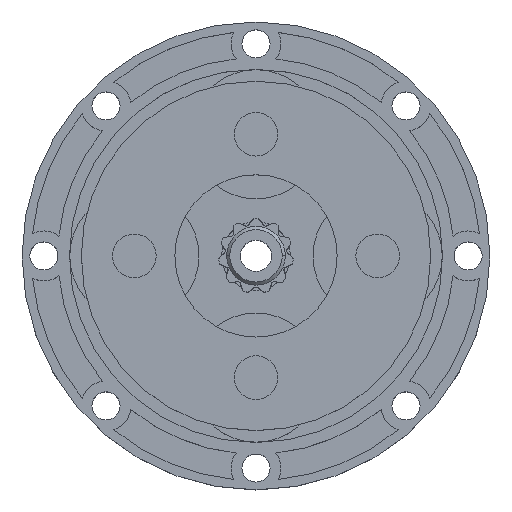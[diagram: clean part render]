
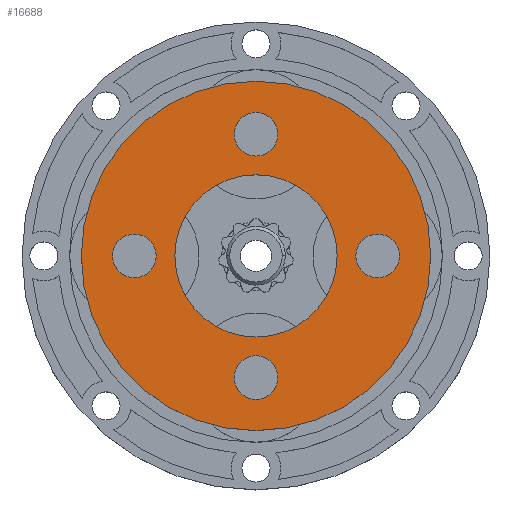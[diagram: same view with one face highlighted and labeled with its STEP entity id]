
A CAD part, top view. The second image highlights one B-rep face of the part: STEP entity #16688.
In plain terms, the highlighted planar face has unit normal (0, 0, 1).
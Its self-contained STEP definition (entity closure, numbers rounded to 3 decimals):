
#270 = AXIS2_PLACEMENT_3D ( 'NONE', #13470, #5233, #5578 ) ;
#287 = DIRECTION ( 'NONE',  ( 0., 0., 1. ) ) ;
#678 = CIRCLE ( 'NONE', #12444, 3.5 ) ;
#724 = CARTESIAN_POINT ( 'NONE',  ( -19.5, 0., 8.35 ) ) ;
#727 = ORIENTED_EDGE ( 'NONE', *, *, #7710, .F. ) ;
#902 = VERTEX_POINT ( 'NONE', #6991 ) ;
#1197 = CIRCLE ( 'NONE', #12405, 3.5 ) ;
#1331 = CARTESIAN_POINT ( 'NONE',  ( 0., -19.5, 8.35 ) ) ;
#1669 = CIRCLE ( 'NONE', #2508, 3.5 ) ;
#1938 = PLANE ( 'NONE',  #3360 ) ;
#2398 = VERTEX_POINT ( 'NONE', #17147 ) ;
#2508 = AXIS2_PLACEMENT_3D ( 'NONE', #16681, #3437, #4676 ) ;
#2682 = CARTESIAN_POINT ( 'NONE',  ( -19.5, 0., 8.35 ) ) ;
#2695 = DIRECTION ( 'NONE',  ( 0., 0., 1. ) ) ;
#2770 = EDGE_LOOP ( 'NONE', ( #14579, #6123 ) ) ;
#3115 = VERTEX_POINT ( 'NONE', #7392 ) ;
#3360 = AXIS2_PLACEMENT_3D ( 'NONE', #12724, #15447, #15934 ) ;
#3374 = CIRCLE ( 'NONE', #10366, 13. ) ;
#3437 = DIRECTION ( 'NONE',  ( 0., 0., 1. ) ) ;
#3567 = VERTEX_POINT ( 'NONE', #5794 ) ;
#3645 = CARTESIAN_POINT ( 'NONE',  ( -3.5, 19.5, 8.35 ) ) ;
#3693 = CARTESIAN_POINT ( 'NONE',  ( 13., 0., 8.35 ) ) ;
#3974 = EDGE_LOOP ( 'NONE', ( #4134, #7748 ) ) ;
#4062 = DIRECTION ( 'NONE',  ( 0., 0., 1. ) ) ;
#4134 = ORIENTED_EDGE ( 'NONE', *, *, #15630, .T. ) ;
#4226 = CIRCLE ( 'NONE', #17106, 3.5 ) ;
#4307 = ORIENTED_EDGE ( 'NONE', *, *, #13800, .F. ) ;
#4351 = DIRECTION ( 'NONE',  ( 0., 1., 0. ) ) ;
#4479 = CARTESIAN_POINT ( 'NONE',  ( -19.5, 3.5, 8.35 ) ) ;
#4605 = VERTEX_POINT ( 'NONE', #9351 ) ;
#4676 = DIRECTION ( 'NONE',  ( 1., 0., 0. ) ) ;
#4697 = EDGE_CURVE ( 'NONE', #12497, #12591, #4226, .T. ) ;
#4701 = DIRECTION ( 'NONE',  ( 1., 0., 0. ) ) ;
#4784 = DIRECTION ( 'NONE',  ( 0., 0., 1. ) ) ;
#5086 = VERTEX_POINT ( 'NONE', #8621 ) ;
#5233 = DIRECTION ( 'NONE',  ( 0., 0., 1. ) ) ;
#5251 = AXIS2_PLACEMENT_3D ( 'NONE', #8440, #8868, #10003 ) ;
#5352 = EDGE_CURVE ( 'NONE', #5086, #4605, #5366, .T. ) ;
#5366 = CIRCLE ( 'NONE', #12642, 28. ) ;
#5578 = DIRECTION ( 'NONE',  ( -1., 0., 0. ) ) ;
#5595 = CARTESIAN_POINT ( 'NONE',  ( 0., 19.5, 8.35 ) ) ;
#5596 = AXIS2_PLACEMENT_3D ( 'NONE', #5595, #2695, #9362 ) ;
#5664 = VERTEX_POINT ( 'NONE', #14024 ) ;
#5794 = CARTESIAN_POINT ( 'NONE',  ( 3.5, 19.5, 8.35 ) ) ;
#5818 = CIRCLE ( 'NONE', #5251, 3.5 ) ;
#6123 = ORIENTED_EDGE ( 'NONE', *, *, #16924, .F. ) ;
#6157 = VERTEX_POINT ( 'NONE', #3645 ) ;
#6481 = FACE_BOUND ( 'NONE', #15274, .T. ) ;
#6820 = VERTEX_POINT ( 'NONE', #16063 ) ;
#6991 = CARTESIAN_POINT ( 'NONE',  ( -3.5, -19.5, 8.35 ) ) ;
#7242 = AXIS2_PLACEMENT_3D ( 'NONE', #13992, #8393, #4701 ) ;
#7392 = CARTESIAN_POINT ( 'NONE',  ( 19.5, 3.5, 8.35 ) ) ;
#7470 = EDGE_LOOP ( 'NONE', ( #14328, #12834 ) ) ;
#7585 = DIRECTION ( 'NONE',  ( 0., 1., 0. ) ) ;
#7648 = DIRECTION ( 'NONE',  ( 0., 0., 1. ) ) ;
#7710 = EDGE_CURVE ( 'NONE', #2398, #902, #11761, .T. ) ;
#7748 = ORIENTED_EDGE ( 'NONE', *, *, #5352, .T. ) ;
#7987 = DIRECTION ( 'NONE',  ( 1., 0., 0. ) ) ;
#8191 = DIRECTION ( 'NONE',  ( -1., 0., 0. ) ) ;
#8393 = DIRECTION ( 'NONE',  ( 0., 0., 1. ) ) ;
#8440 = CARTESIAN_POINT ( 'NONE',  ( 19.5, 0., 8.35 ) ) ;
#8621 = CARTESIAN_POINT ( 'NONE',  ( 28., 0., 8.35 ) ) ;
#8794 = FACE_BOUND ( 'NONE', #7470, .T. ) ;
#8807 = ORIENTED_EDGE ( 'NONE', *, *, #8990, .F. ) ;
#8868 = DIRECTION ( 'NONE',  ( 0., 0., 1. ) ) ;
#8990 = EDGE_CURVE ( 'NONE', #9304, #5664, #3374, .T. ) ;
#9194 = FACE_BOUND ( 'NONE', #15782, .T. ) ;
#9243 = EDGE_CURVE ( 'NONE', #5664, #9304, #11823, .T. ) ;
#9304 = VERTEX_POINT ( 'NONE', #3693 ) ;
#9351 = CARTESIAN_POINT ( 'NONE',  ( -28., 0., 8.35 ) ) ;
#9362 = DIRECTION ( 'NONE',  ( 1., 0., 0. ) ) ;
#9958 = EDGE_CURVE ( 'NONE', #3115, #6820, #1197, .T. ) ;
#10003 = DIRECTION ( 'NONE',  ( 0., -1., 0. ) ) ;
#10366 = AXIS2_PLACEMENT_3D ( 'NONE', #16074, #4062, #11941 ) ;
#10502 = FACE_OUTER_BOUND ( 'NONE', #3974, .T. ) ;
#11761 = CIRCLE ( 'NONE', #12611, 3.5 ) ;
#11784 = EDGE_CURVE ( 'NONE', #12591, #12497, #678, .T. ) ;
#11823 = CIRCLE ( 'NONE', #14909, 13. ) ;
#11941 = DIRECTION ( 'NONE',  ( 1., 0., 0. ) ) ;
#12338 = CARTESIAN_POINT ( 'NONE',  ( 19.5, 0., 8.35 ) ) ;
#12360 = ORIENTED_EDGE ( 'NONE', *, *, #9243, .F. ) ;
#12405 = AXIS2_PLACEMENT_3D ( 'NONE', #12338, #13840, #13489 ) ;
#12444 = AXIS2_PLACEMENT_3D ( 'NONE', #724, #4784, #7585 ) ;
#12497 = VERTEX_POINT ( 'NONE', #4479 ) ;
#12591 = VERTEX_POINT ( 'NONE', #15513 ) ;
#12611 = AXIS2_PLACEMENT_3D ( 'NONE', #1331, #14581, #8191 ) ;
#12639 = FACE_BOUND ( 'NONE', #2770, .T. ) ;
#12642 = AXIS2_PLACEMENT_3D ( 'NONE', #16039, #14635, #7987 ) ;
#12724 = CARTESIAN_POINT ( 'NONE',  ( 0., 0., 8.35 ) ) ;
#12834 = ORIENTED_EDGE ( 'NONE', *, *, #4697, .F. ) ;
#13154 = CIRCLE ( 'NONE', #5596, 3.5 ) ;
#13443 = ORIENTED_EDGE ( 'NONE', *, *, #17264, .F. ) ;
#13470 = CARTESIAN_POINT ( 'NONE',  ( 0., -19.5, 8.35 ) ) ;
#13489 = DIRECTION ( 'NONE',  ( 0., -1., 0. ) ) ;
#13800 = EDGE_CURVE ( 'NONE', #6820, #3115, #5818, .T. ) ;
#13840 = DIRECTION ( 'NONE',  ( 0., 0., 1. ) ) ;
#13992 = CARTESIAN_POINT ( 'NONE',  ( 0., 0., 8.35 ) ) ;
#14024 = CARTESIAN_POINT ( 'NONE',  ( -13., 0., 8.35 ) ) ;
#14057 = CARTESIAN_POINT ( 'NONE',  ( 0., 0., 8.35 ) ) ;
#14328 = ORIENTED_EDGE ( 'NONE', *, *, #11784, .F. ) ;
#14451 = FACE_BOUND ( 'NONE', #14957, .T. ) ;
#14579 = ORIENTED_EDGE ( 'NONE', *, *, #16713, .F. ) ;
#14581 = DIRECTION ( 'NONE',  ( 0., 0., 1. ) ) ;
#14635 = DIRECTION ( 'NONE',  ( 0., 0., 1. ) ) ;
#14777 = CIRCLE ( 'NONE', #7242, 28. ) ;
#14857 = CIRCLE ( 'NONE', #270, 3.5 ) ;
#14909 = AXIS2_PLACEMENT_3D ( 'NONE', #14057, #7648, #16940 ) ;
#14957 = EDGE_LOOP ( 'NONE', ( #12360, #8807 ) ) ;
#15060 = ORIENTED_EDGE ( 'NONE', *, *, #9958, .F. ) ;
#15274 = EDGE_LOOP ( 'NONE', ( #727, #13443 ) ) ;
#15447 = DIRECTION ( 'NONE',  ( 0., 0., 1. ) ) ;
#15513 = CARTESIAN_POINT ( 'NONE',  ( -19.5, -3.5, 8.35 ) ) ;
#15630 = EDGE_CURVE ( 'NONE', #4605, #5086, #14777, .T. ) ;
#15782 = EDGE_LOOP ( 'NONE', ( #15060, #4307 ) ) ;
#15934 = DIRECTION ( 'NONE',  ( 1., 0., 0. ) ) ;
#16039 = CARTESIAN_POINT ( 'NONE',  ( 0., 0., 8.35 ) ) ;
#16063 = CARTESIAN_POINT ( 'NONE',  ( 19.5, -3.5, 8.35 ) ) ;
#16074 = CARTESIAN_POINT ( 'NONE',  ( 0., 0., 8.35 ) ) ;
#16681 = CARTESIAN_POINT ( 'NONE',  ( 0., 19.5, 8.35 ) ) ;
#16688 = ADVANCED_FACE ( 'NONE', ( #8794, #6481, #9194, #12639, #10502, #14451 ), #1938, .T. ) ;
#16713 = EDGE_CURVE ( 'NONE', #6157, #3567, #1669, .T. ) ;
#16924 = EDGE_CURVE ( 'NONE', #3567, #6157, #13154, .T. ) ;
#16940 = DIRECTION ( 'NONE',  ( 1., 0., 0. ) ) ;
#17106 = AXIS2_PLACEMENT_3D ( 'NONE', #2682, #287, #4351 ) ;
#17147 = CARTESIAN_POINT ( 'NONE',  ( 3.5, -19.5, 8.35 ) ) ;
#17264 = EDGE_CURVE ( 'NONE', #902, #2398, #14857, .T. ) ;
